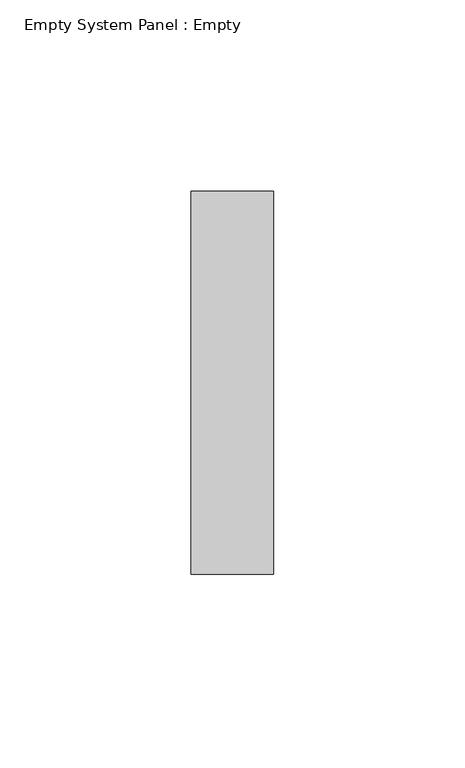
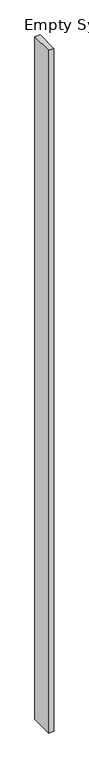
"""IFC4 building model written with IfcOpenShell, lengths in millimetres: plate geometry, Empty System Panel : Empty."""

from ifc_helpers import new_model, si_unit, origin, origin_with_axes, place, context, project, spatial, polyline, outline, extrude, source, transform, mapped, element, save


def empty_system_panel_empty_4c56fec8(model_context):
    return source(origin(), model_context, "Body", "SweptSolid", [
        extrude(outline(polyline([(10.75, -50.0), (-10.75, -50.0), (-10.75, 50.0), (10.75, 50.0), (10.75, -50.0)])), origin_with_axes(), (0.0, 0.0, 1.0), 3000.0),
    ])


if __name__ == "__main__":
    model = new_model("IFC4")
    model_context = context("Model", 3, world=origin())
    ifc_project = project(units=[si_unit("LENGTHUNIT", "METRE", prefix="MILLI")], contexts=[model_context])
    site = spatial("IfcSite", under=ifc_project)
    building = spatial("IfcBuilding", under=site)
    placement = place(None, origin())
    empty_system_panel_empty_shape = empty_system_panel_empty_4c56fec8(model_context)
    element("IfcPlate", 1, ObjectType="Empty System Panel : Empty", at=placement, inside=building, context=model_context, shape_type="MappedRepresentation", body=[
        mapped(empty_system_panel_empty_shape, transform((0.0, 0.0, 0.0), x_axis=(1.0, 0.0, 0.0), y_axis=(0.0, 1.0, 0.0), z_axis=(0.0, 0.0, 1.0))),
    ])
    save(model, "model.ifc")
